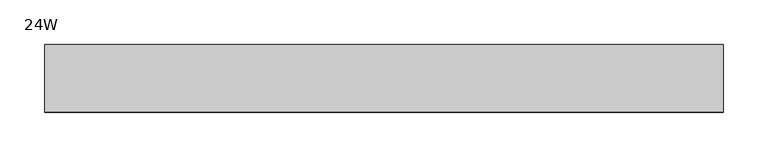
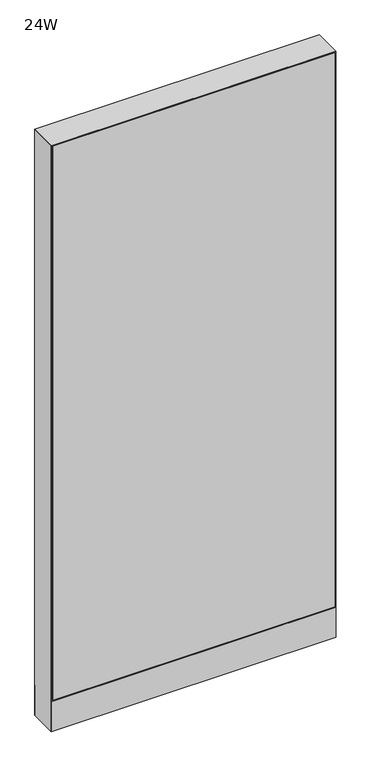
"""IFC4 building model written with IfcOpenShell, lengths in millimetres: furniture geometry, Steelcase - Montage - Frame - 65H - Enhanced Standard - Base Cavity : 24W."""

from ifc_helpers import new_model, si_unit, point, frame, frame_2d, origin, origin_with_axes, place, context, project, spatial, polyline, circle_curve, trimmed, segment, composite_curve, outline, extrude, faceted_brep, source, transform, mapped, element, save


def furniture_24w_92815adc(model_context):
    return source(origin(), model_context, "Body", "SolidModel", [
        extrude(outline(polyline([(3.175, 31.7500194), (3.175, 38.1000194), (758.825, 38.1000194), (758.825, 31.7500194), (3.175, 31.7500194)])), frame((0.0, 0.0, 92.075), z_axis=(0.0, 0.0, 1.0), x_axis=(1.0, 0.0, 0.0)), (0.0, 0.0, 1.0), 1565.275),
        extrude(outline(polyline([(3.175, -31.7500194), (758.825, -31.7500194), (758.825, -38.1000194), (3.175, -38.1000194), (3.175, -31.7500194)])), frame((0.0, 0.0, 92.075), z_axis=(0.0, 0.0, 1.0), x_axis=(1.0, 0.0, 0.0)), (0.0, 0.0, 1.0), 1565.275),
        extrude(outline(polyline([(6.350003, -31.7499985), (755.649997, -31.7499985), (762.0, -38.1000015), (0.0, -38.1000015), (6.350003, -31.7499985)])), frame((0.0, 0.0, 4.064), z_axis=(0.0, 0.0, 1.0), x_axis=(1.0, 0.0, 0.0)), (0.0, 0.0, 1.0), 84.835997),
        extrude(outline(polyline([(6.3500002, 31.7500017), (0.0, 38.1000015), (762.0, 38.1000015), (755.6500002, 31.7500017), (6.3500002, 31.7500017)])), frame((0.0, 0.0, 4.064), z_axis=(0.0, 0.0, 1.0), x_axis=(1.0, 0.0, 0.0)), (0.0, 0.0, 1.0), 84.835997),
        faceted_brep([(762.0, -38.1000015, 1660.525), (0.0, -38.1000015, 1660.525), (6.3500484, -31.749953, 1654.1749516), (755.6499516, -31.749953, 1654.1749516), (6.3500484, 31.749953, 1654.1749516), (755.6499516, 31.749953, 1654.1749516), (0.0, 38.1000015, 1660.525), (762.0, 38.1000015, 1660.525)], [[[0, 1, 2, 3]], [[3, 2, 4, 5]], [[6, 7, 5, 4]], [[1, 0, 7, 6]], [[2, 1, 6, 4]], [[0, 3, 5, 7]]]),
        extrude(outline(composite_curve([segment(trimmed(circle_curve(frame_2d((44.45, 0.0)), 15.24), [point((29.21, 0.0))], [point((59.69, 0.0))], False, "CARTESIAN"), True, "CONTINUOUS"), segment(trimmed(circle_curve(frame_2d((44.45, 0.0)), 15.24), [point((59.69, 0.0))], [point((29.21, 0.0))], False, "CARTESIAN"), True, "CONTINUOUS")], self_intersect=False)), origin_with_axes(), (0.0, 0.0, 1.0), 4.064),
        extrude(outline(composite_curve([segment(trimmed(circle_curve(frame_2d((717.55, 0.0)), 15.24), [point((702.31, 0.0))], [point((732.79, 0.0))], False, "CARTESIAN"), True, "CONTINUOUS"), segment(trimmed(circle_curve(frame_2d((717.55, 0.0)), 15.24), [point((732.79, 0.0))], [point((702.31, 0.0))], False, "CARTESIAN"), True, "CONTINUOUS")], self_intersect=False)), origin_with_axes(), (0.0, 0.0, 1.0), 4.064),
        faceted_brep([(762.0, -38.1000106, 4.064), (762.0, 38.1000015, 4.064), (762.0, 38.1000015, 1660.525), (762.0, -38.1000106, 1660.5249637), (0.0, 38.1000015, 4.064), (0.0, -38.1000015, 4.064), (0.0, -38.1000015, 1660.525), (0.0, 38.1000015, 1660.525), (755.6499879, 31.7500017, 606.425), (6.35, 31.7500017, 606.425), (6.3499998, 31.7500017, 619.125), (755.6499879, 31.7500017, 619.125), (6.35, -31.7499985, 619.125), (755.6499879, -31.7499985, 619.125), (6.350003, -31.7499985, 606.425), (755.6499879, -31.7499985, 606.425), (755.6499879, 31.7500017, 1130.3), (6.35, 31.7500017, 1130.3), (6.3499998, 31.7500017, 1143.0), (755.6499879, 31.7500017, 1143.0), (6.35, -31.7499985, 1143.0), (755.6499879, -31.7499985, 1143.0), (6.350003, -31.7499985, 1130.3), (755.6499879, -31.7499985, 1130.3), (6.35, 31.7500015, 4.064), (6.35, -31.7500015, 4.064), (755.6499879, 31.7499894, 4.064), (755.6499879, -31.7499985, 4.064), (6.35, 31.7500015, 1654.175), (6.35, -31.7500015, 1654.175), (755.6499879, -31.7499985, 1654.1749516), (755.6499879, 31.7499895, 1654.1749516)], [[[0, 1, 2, 3]], [[4, 5, 6, 7]], [[8, 9, 10, 11]], [[11, 10, 12, 13]], [[13, 12, 14, 15]], [[9, 8, 15, 14]], [[16, 17, 18, 19]], [[19, 18, 20, 21]], [[21, 20, 22, 23]], [[17, 16, 23, 22]], [[24, 25, 5, 4]], [[26, 1, 0, 27]], [[24, 4, 7, 28, 18, 17, 10, 9]], [[5, 25, 14, 12, 22, 20, 29, 6]], [[25, 24, 9, 14]], [[10, 17, 22, 12]], [[20, 18, 28, 29]], [[26, 27, 15, 8]], [[16, 11, 13, 23]], [[19, 21, 30, 31]], [[27, 0, 3, 30, 21, 23, 13, 15]], [[1, 26, 8, 11, 16, 19, 31, 2]], [[7, 6, 29, 28]], [[3, 2, 31, 30]]]),
    ])


if __name__ == "__main__":
    model = new_model("IFC4")
    model_context = context("Model", 3, world=origin())
    ifc_project = project(units=[si_unit("LENGTHUNIT", "METRE", prefix="MILLI")], contexts=[model_context])
    site = spatial("IfcSite", under=ifc_project)
    building = spatial("IfcBuilding", under=site)
    placement = place(None, origin())
    furniture_24w_shape = furniture_24w_92815adc(model_context)
    element("IfcFurniture", 1, ObjectType="Steelcase - Montage - Frame - 65H - Enhanced Standard - Base Cavity : 24W", at=placement, inside=building, context=model_context, shape_type="MappedRepresentation", body=[
        mapped(furniture_24w_shape, transform((0.0, 0.0, 0.0), x_axis=(1.0, 0.0, 0.0), y_axis=(0.0, 1.0, 0.0), z_axis=(0.0, 0.0, 1.0))),
    ])
    save(model, "model.ifc")
